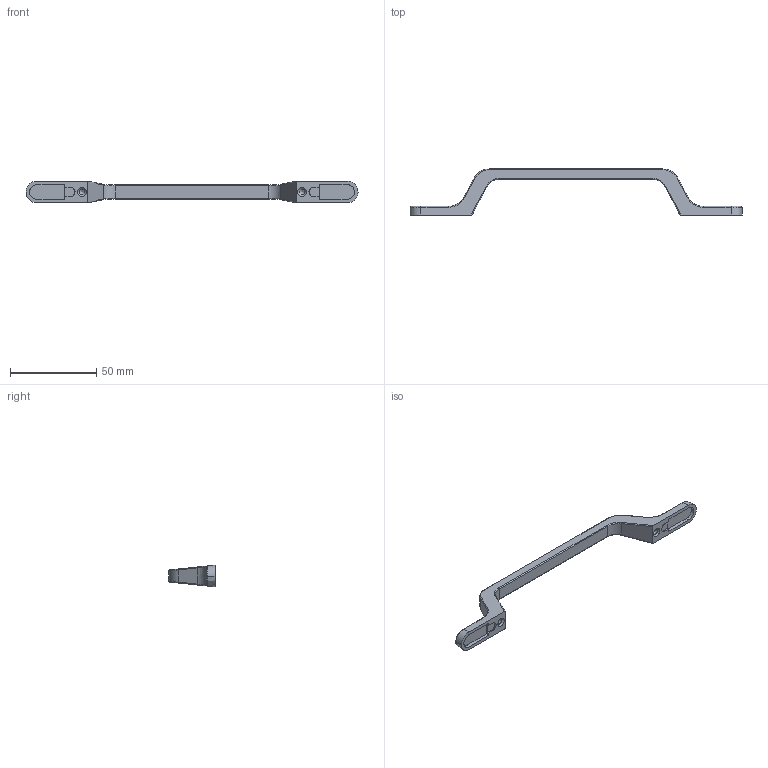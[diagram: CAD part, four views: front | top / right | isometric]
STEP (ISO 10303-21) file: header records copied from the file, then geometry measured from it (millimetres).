
FILE_DESCRIPTION(/* description */ (''),/* implementation_level */ '2;1');
FILE_NAME(/* name */ 'D:\$Workingspace\Designs\Meblowka\uchwyty\UZ-FLAVIO\UZ-FLAVIO-128.stp',/* time_stamp */ '2019-01-11T09:36:06+01:00',/* author */ ('tomaszw'),/* organization */ (''),/* preprocessor_version */ 'ST-DEVELOPER v17',/* originating_system */ 'Autodesk Inventor 2019',/* authorisation */ '');
FILE_SCHEMA (('AUTOMOTIVE_DESIGN { 1 0 10303 214 3 1 1 }'));
Length unit declared in the file: millimetre
Products named in the file (1): UZ-FLAVIO-128-01
Bounding box: 193 x 26.8 x 12.6 mm (x, y, z)
Volume: 12039.4 mm3; surface area: 7111.8 mm2
Topology: 1 solids, 1 shells, 80 faces, 200 edges, 124 vertices
Faces by surface type: cylinder 28, plane 26, bspline 22, cone 4
Full cylindrical faces by diameter (mm): 3.242 x2
Entity records: 3323 total; most frequent: CARTESIAN_POINT 1427, ORIENTED_EDGE 396, DIRECTION 372, EDGE_CURVE 198, AXIS2_PLACEMENT_3D 135, VERTEX_POINT 124, LINE 102, VECTOR 102
